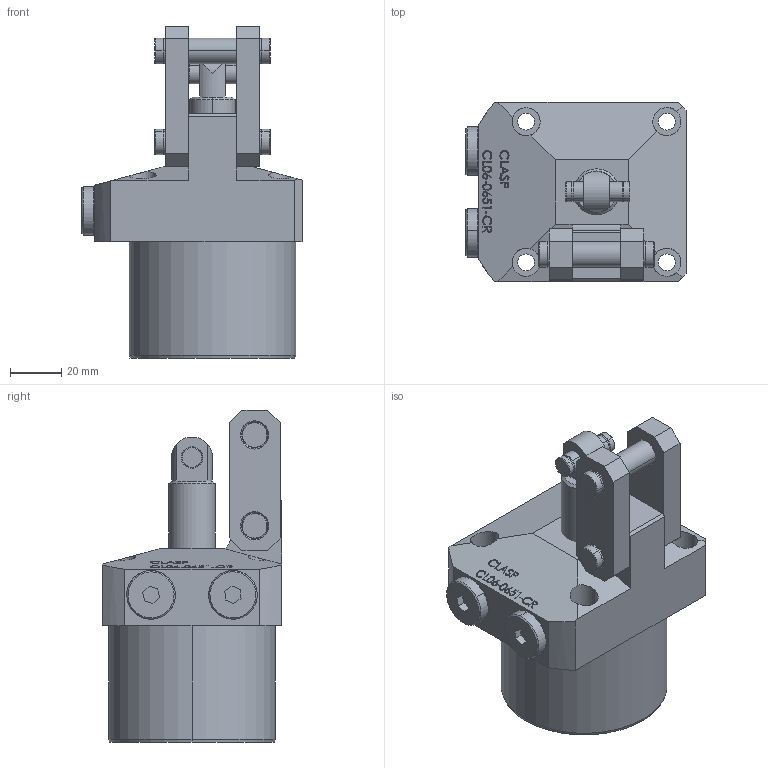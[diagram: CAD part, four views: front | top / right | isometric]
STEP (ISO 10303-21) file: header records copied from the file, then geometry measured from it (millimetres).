
FILE_DESCRIPTION (( 'STEP AP203' ), '1' );
FILE_NAME ('CL06-0651cr.STEP', '2022-07-05T17:33:23', ( '' ), ( '' ), 'SwSTEP 2.0', 'SolidWorks 2017', '' );
FILE_SCHEMA (( 'CONFIG_CONTROL_DESIGN' ));
Length unit declared in the file: millimetre
Products named in the file (7): CL06-0651 Part2 cr; CL06-0651 Part5 cr; CL06-0651 Part6 cr; CL06-0651 Part7 cr; CL06-0651cr; CL06-0651 Part1 cr; CL06-0651 Part3 cr
Assembly tree (9 placements, depth 2):
  CL06-0651cr
    CL06-0651 Part1 cr
    CL06-0651 Part3 cr
    CL06-0651 Part2 cr  x2
    CL06-0651 Part5 cr  x2
    CL06-0651 Part6 cr  x2
    CL06-0651 Part7 cr
Bounding box: 86 x 70 x 129.75 mm (x, y, z)
Volume: 332448 mm3; surface area: 51596.4 mm2
Topology: 9 solids, 9 shells, 428 faces, 1038 edges, 672 vertices
Faces by surface type: plane 192, bspline 97, cylinder 91, cone 48
Entity records: 17487 total; most frequent: CARTESIAN_POINT 8430, ORIENTED_EDGE 1824, DIRECTION 1434, EDGE_CURVE 912, VERTEX_POINT 596, LINE 530, VECTOR 530, AXIS2_PLACEMENT_3D 452
